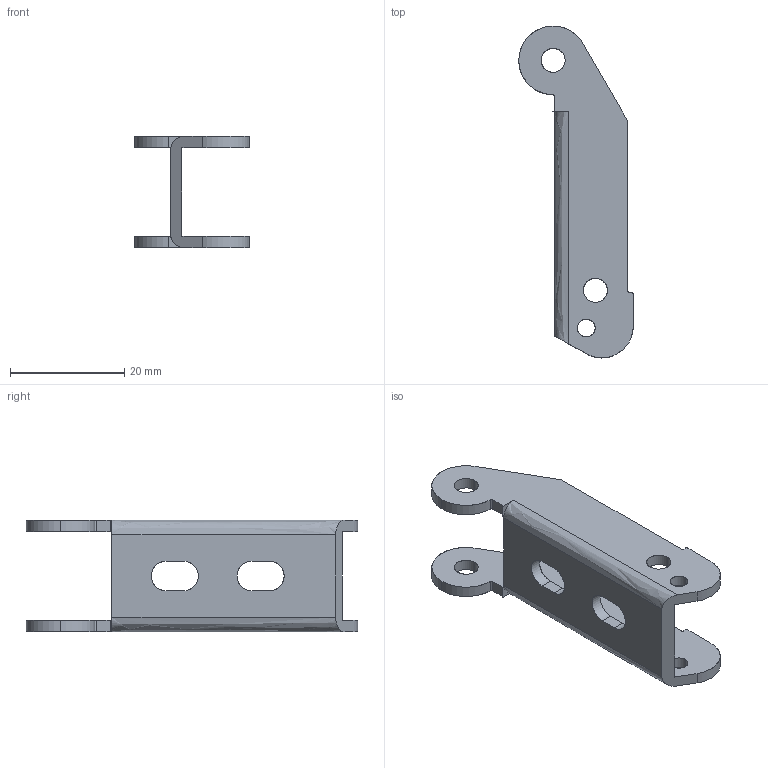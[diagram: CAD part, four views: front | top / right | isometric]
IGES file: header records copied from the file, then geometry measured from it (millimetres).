
Start section: SolidWorks IGES FILE using analytic representation for surfaces
Global section: file name: C:\Documents and Settings\lecoutey\Bureau\GP 1075\1076.020.10.IGS; native system: SolidWorks 2004 by SolidWorks Corporation; preprocessor: Version 5.3; author: lecoutey; date: 050329.153716; units: millimetre
Bounding box: 20 x 58 x 19.5 mm (x, y, z)
Surface area: 4392.9 mm2 (no closed solid volume)
Topology: 0 solids, 0 shells, 60 faces, 1058 edges, 1058 vertices
Faces by surface type: revolution 36, bspline 24
